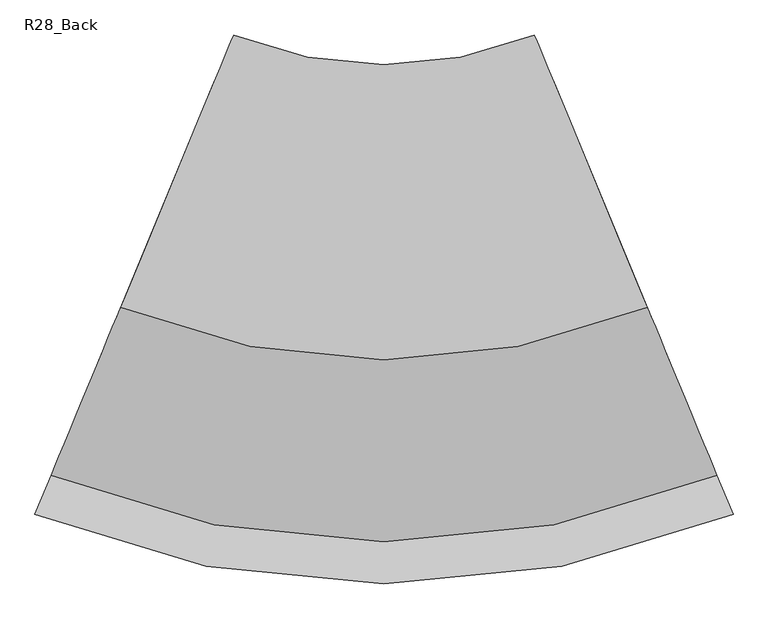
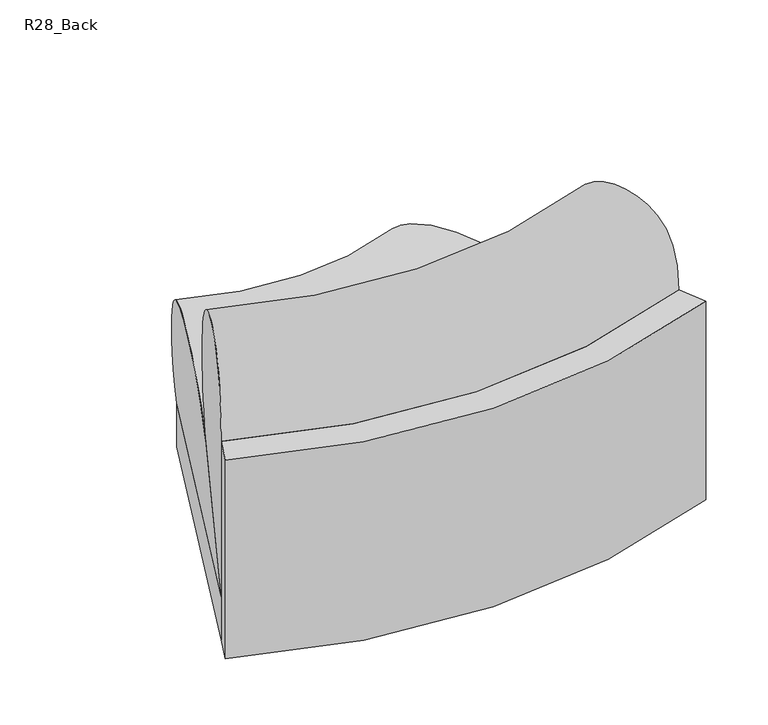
"""IFC4 building model written with IfcOpenShell, lengths in millimetres: furniture geometry, Memo_Candy_CurveInside_R28 : R28_Back."""

from ifc_helpers import new_model, si_unit, point, frame, frame_2d, origin, origin_with_axes, place, context, project, spatial, polyline, circle_curve, ellipse_curve, trimmed, segment, composite_curve, outline, extrude, source, transform, mapped, element, save
from ifc_brep_helpers import plane_surface, cylinder_surface, revolved_surface, spline_curve, advanced_brep


def r28_back_6dc95181(model_context):
    return source(origin(), model_context, "Body", "SolidModel", [
        advanced_brep(
        [(-602.6498693, -280.1754878, 130.8862), (-602.6498693, -280.1754878, 562.6862), (-500.3233143, -33.1373309, 386.6180112), (-500.175361, -32.7801402, 382.770933), (602.6498693, -280.1754878, 130.8862), (500.175361, -32.7801402, 382.770933), (500.3233143, -33.1373309, 386.6180112), (602.6498693, -280.1754878, 562.6862)],
        [
            (0, 1),
            (1, 2, spline_curve(3, [(-602.6498693, -280.1754878, 562.6862), (-602.6498693, -280.1754878, 709.516352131), (-579.827297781, -225.076926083, 756.110862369), (-531.494348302, -108.390863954, 789.248467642), (-505.955313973, -46.734180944, 768.908542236), (-478.027686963, 20.689074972, 674.263665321), (-474.14745923, 30.056773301, 603.825037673), (-480.797270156, 14.002709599, 487.129586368), (-487.821198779, -2.954554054, 439.369212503), (-500.3233143, -33.1373309, 386.6180112)], [4, 2, 2, 2, 4], [0.0, 0.5511378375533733, 1.1606492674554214, 1.727611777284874, 2.146168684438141])),
            (2, 3, circle_curve(frame((-499.2903487, -30.6435315, 384.9463138), z_axis=(0.9238795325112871, -0.38268343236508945, 0.0), x_axis=(-0.38268343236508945, -0.9238795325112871, 0.0)), 3.175)),
            (3, 0),
            (4, 5),
            (5, 6, circle_curve(frame((499.2903487, -30.6435315, 384.9463138), z_axis=(-0.9238795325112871, -0.38268343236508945, 0.0), x_axis=(0.38268343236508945, -0.9238795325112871, 0.0)), 3.175)),
            (6, 7, spline_curve(3, [(500.3233143, -33.1373309, 386.6180112), (487.821198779, -2.954554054, 439.369212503), (480.797270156, 14.002709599, 487.129586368), (474.14745923, 30.056773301, 603.825037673), (478.027686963, 20.689074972, 674.263665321), (505.955313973, -46.734180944, 768.908542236), (531.494348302, -108.390863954, 789.248467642), (579.827297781, -225.076926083, 756.110862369), (602.6498693, -280.1754878, 709.516352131), (602.6498693, -280.1754878, 562.6862)], [4, 2, 2, 2, 4], [0.0, 0.4185569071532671, 0.9855194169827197, 1.5950308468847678, 2.146168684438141])),
            (7, 4),
            (4, 0, circle_curve(frame((0.0, 1174.75, 130.8862), z_axis=(0.0, 0.0, -1.0), x_axis=(-0.38268343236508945, -0.9238795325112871, 0.0)), 1574.8)),
            (3, 5, circle_curve(frame((0.0, 1174.75, 382.770933), z_axis=(0.0, 0.0, 1.0), x_axis=(-0.38268343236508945, -0.9238795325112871, 0.0)), 1307.0212053)),
            (2, 6, circle_curve(frame((0.0, 1174.75, 386.6180112), z_axis=(0.0, 0.0, 1.0), x_axis=(-0.38268343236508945, -0.9238795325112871, 0.0)), 1307.4078258)),
            (1, 7, circle_curve(frame((0.0, 1174.75, 562.6862), z_axis=(0.0, 0.0, 1.0), x_axis=(-0.38268343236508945, -0.9238795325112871, 0.0)), 1574.8)),
        ],
        [
            plane_surface(frame((0.0, 1174.75, -101.6), z_axis=(-0.923879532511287, 0.3826834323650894, 0.0), x_axis=(-0.3826834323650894, -0.923879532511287, 0.0))),
            plane_surface(frame((0.0, 1174.75, -101.6), z_axis=(0.923879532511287, 0.3826834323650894, 0.0), x_axis=(0.3826834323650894, -0.923879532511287, 0.0))),
            revolved_surface(polyline([(-500.175361, -32.7801402, 382.770933), (-602.6498693, -280.1754878, 130.8862)]), (0.0, 1174.75, -101.6), (0.0, 0.0, 1.0)),
            revolved_surface(trimmed(ellipse_curve(frame((-499.2903487, -30.6435315, 384.9463138), z_axis=(0.9238795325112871, -0.38268343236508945, 0.0), x_axis=(-0.38268343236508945, -0.9238795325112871, 0.0)), 3.175, 3.175), [point((-500.3233143, -33.1373309, 386.6180112))], [point((-500.175361, -32.7801402, 382.770933))], True, "CARTESIAN"), (0.0, 1174.75, -101.6), (0.0, 0.0, 1.0)),
            revolved_surface(spline_curve(3, [(-602.6498693, -280.1754878, 562.6862), (-602.6498693, -280.1754878, 709.516352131), (-579.827297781, -225.076926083, 756.110862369), (-531.494348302, -108.390863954, 789.248467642), (-505.955313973, -46.734180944, 768.908542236), (-478.027686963, 20.689074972, 674.263665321), (-474.14745923, 30.056773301, 603.825037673), (-480.797270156, 14.002709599, 487.129586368), (-487.821198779, -2.954554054, 439.369212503), (-500.3233143, -33.1373309, 386.6180112)], [4, 2, 2, 2, 4], [0.0, 0.5511378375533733, 1.1606492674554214, 1.727611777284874, 2.146168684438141]), (0.0, 1174.75, -101.6), (0.0, 0.0, 1.0)),
            cylinder_surface(frame((0.0, 1174.75, -101.6), z_axis=(0.0, 0.0, 1.0), x_axis=(-0.38268343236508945, -0.9238795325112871, 0.0)), 1574.8),
        ],
        [
            (0, [[1, 2, 3, 4]]),
            (1, [[5, 6, 7, 8]]),
            (2, [[-5, 9, -4, 10]]),
            (3, [[-6, -10, -3, 11]]),
            (4, [[-7, -11, -2, 12]]),
            (5, [[-8, -12, -1, -9]]),
        ],
    ),
        advanced_brep(
        [(-602.6498693, -280.1754878, 130.8862), (-500.175361, -32.7801402, 382.770933), (-498.6241946, -29.0352931, 382.2910487), (-498.1095318, -27.7927873, 383.1727272), (-306.1850142, 435.553986, 130.8862), (602.6498693, -280.1754878, 130.8862), (306.1850142, 435.553986, 130.8862), (498.1095318, -27.7927873, 383.1727272), (498.6241946, -29.0352931, 382.2910487), (500.175361, -32.7801402, 382.770933)],
        [
            (0, 1),
            (1, 2, circle_curve(frame((-499.2903487, -30.6435315, 384.9463138), z_axis=(0.9238795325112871, -0.38268343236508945, 0.0), x_axis=(-0.38268343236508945, -0.9238795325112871, 0.0)), 3.175)),
            (2, 3),
            (3, 4, spline_curve(3, [(-498.1095318, -27.7927873, 383.1727272), (-467.382238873, 46.389460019, 435.812236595), (-424.808393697, 149.171814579, 449.084914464), (-354.290543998, 319.416963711, 454.422655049), (-328.653768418, 381.309614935, 443.81214514), (-288.783539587, 477.564862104, 393.569418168), (-273.53242287, 514.384314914, 357.685536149), (-271.191507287, 520.035785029, 240.606468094), (-278.893552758, 501.44140235, 170.417318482), (-306.1850142, 435.553986, 130.8862)], [4, 2, 2, 2, 4], [0.0, 0.5700178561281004, 1.2070229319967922, 1.7653111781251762, 2.2072085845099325])),
            (4, 0),
            (5, 6),
            (6, 7, spline_curve(3, [(306.1850142, 435.553986, 130.8862), (278.893552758, 501.44140235, 170.417318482), (271.191507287, 520.035785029, 240.606468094), (273.53242287, 514.384314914, 357.685536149), (288.783539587, 477.564862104, 393.569418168), (328.653768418, 381.309614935, 443.81214514), (354.290543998, 319.416963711, 454.422655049), (424.808393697, 149.171814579, 449.084914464), (467.382238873, 46.389460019, 435.812236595), (498.1095318, -27.7927873, 383.1727272)], [4, 2, 2, 2, 4], [0.0, 0.4418974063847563, 1.0001856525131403, 1.637190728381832, 2.2072085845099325])),
            (7, 8),
            (8, 9, circle_curve(frame((499.2903487, -30.6435315, 384.9463138), z_axis=(-0.9238795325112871, -0.38268343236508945, 0.0), x_axis=(0.38268343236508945, -0.9238795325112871, 0.0)), 3.175)),
            (9, 5),
            (5, 0, circle_curve(frame((0.0, 1174.75, 130.8862), z_axis=(0.0, 0.0, -1.0), x_axis=(-0.38268343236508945, -0.9238795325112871, 0.0)), 1574.8)),
            (4, 6, circle_curve(frame((0.0, 1174.75, 130.8862), z_axis=(0.0, 0.0, 1.0), x_axis=(-0.38268343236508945, -0.9238795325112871, 0.0)), 800.1)),
            (3, 7, circle_curve(frame((0.0, 1174.75, 383.1727272), z_axis=(0.0, 0.0, 1.0), x_axis=(-0.38268343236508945, -0.9238795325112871, 0.0)), 1301.6229335)),
            (2, 8, circle_curve(frame((0.0, 1174.75, 382.2910487), z_axis=(0.0, 0.0, 1.0), x_axis=(-0.38268343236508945, -0.9238795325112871, 0.0)), 1302.9678121)),
            (1, 9, circle_curve(frame((0.0, 1174.75, 382.770933), z_axis=(0.0, 0.0, 1.0), x_axis=(-0.38268343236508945, -0.9238795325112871, 0.0)), 1307.0212053)),
        ],
        [
            plane_surface(frame((0.0, 1174.75, -173.9138), z_axis=(-0.923879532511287, 0.3826834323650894, 0.0), x_axis=(-0.3826834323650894, -0.923879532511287, 0.0))),
            plane_surface(frame((0.0, 1174.75, -173.9138), z_axis=(0.923879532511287, 0.3826834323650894, 0.0), x_axis=(0.3826834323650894, -0.923879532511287, 0.0))),
            plane_surface(frame((0.0, 1174.75, 130.8862), z_axis=(0.0, 0.0, -1.0), x_axis=(-0.3826834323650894, -0.923879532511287, 0.0))),
            revolved_surface(spline_curve(3, [(-498.1095318, -27.7927873, 383.1727272), (-467.382238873, 46.389460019, 435.812236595), (-424.808393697, 149.171814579, 449.084914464), (-354.290543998, 319.416963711, 454.422655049), (-328.653768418, 381.309614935, 443.81214514), (-288.783539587, 477.564862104, 393.569418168), (-273.53242287, 514.384314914, 357.685536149), (-271.191507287, 520.035785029, 240.606468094), (-278.893552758, 501.44140235, 170.417318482), (-306.1850142, 435.553986, 130.8862)], [4, 2, 2, 2, 4], [0.0, 0.5700178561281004, 1.2070229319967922, 1.7653111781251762, 2.2072085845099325]), (0.0, 1174.75, -173.9138), (0.0, 0.0, 1.0)),
            revolved_surface(polyline([(-498.6241946, -29.0352931, 382.2910487), (-498.1095318, -27.7927873, 383.1727272)]), (0.0, 1174.75, -173.9138), (0.0, 0.0, 1.0)),
            revolved_surface(trimmed(ellipse_curve(frame((-499.2903487, -30.6435315, 384.9463138), z_axis=(0.9238795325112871, -0.38268343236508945, 0.0), x_axis=(-0.38268343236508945, -0.9238795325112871, 0.0)), 3.175, 3.175), [point((-500.175361, -32.7801402, 382.770933))], [point((-498.6241946, -29.0352931, 382.2910487))], True, "CARTESIAN"), (0.0, 1174.75, -173.9138), (0.0, 0.0, 1.0)),
            revolved_surface(polyline([(-602.6498693, -280.1754878, 130.8862), (-500.175361, -32.7801402, 382.770933)]), (0.0, 1174.75, -173.9138), (0.0, 0.0, 1.0)),
        ],
        [
            (0, [[1, 2, 3, 4, 5]]),
            (1, [[6, 7, 8, 9, 10]]),
            (2, [[-6, 11, -5, 12]]),
            (3, [[-7, -12, -4, 13]]),
            (4, [[-8, -13, -3, 14]]),
            (5, [[-9, -14, -2, 15]]),
            (6, [[-10, -15, -1, -11]]),
        ],
    ),
        extrude(outline(composite_curve([segment(trimmed(circle_curve(frame_2d((-529.9996222, -254.1224228)), 14.2875), [point((-544.2871222, -254.1224228))], [point((-515.7121222, -254.1224228))], False, "CARTESIAN"), True, "CONTINUOUS"), segment(trimmed(circle_curve(frame_2d((-529.9996222, -254.1224228)), 14.2875), [point((-515.7121222, -254.1224228))], [point((-544.2871222, -254.1224228))], False, "CARTESIAN"), True, "CONTINUOUS")], self_intersect=False)), origin_with_axes(), (0.0, 0.0, 1.0), 10.2362),
        extrude(outline(composite_curve([segment(trimmed(circle_curve(frame_2d((529.9996222, -254.1224228)), 14.2875), [point((515.7121222, -254.1224228))], [point((544.2871222, -254.1224228))], False, "CARTESIAN"), True, "CONTINUOUS"), segment(trimmed(circle_curve(frame_2d((529.9996222, -254.1224228)), 14.2875), [point((544.2871222, -254.1224228))], [point((515.7121222, -254.1224228))], False, "CARTESIAN"), True, "CONTINUOUS")], self_intersect=False)), origin_with_axes(), (0.0, 0.0, 1.0), 10.2362),
        extrude(outline(composite_curve([segment(trimmed(circle_curve(frame_2d((-272.0903348, 368.5256766)), 14.2875), [point((-286.3778348, 368.5256766))], [point((-257.8028348, 368.5256766))], False, "CARTESIAN"), True, "CONTINUOUS"), segment(trimmed(circle_curve(frame_2d((-272.0903348, 368.5256766)), 14.2875), [point((-257.8028348, 368.5256766))], [point((-286.3778348, 368.5256766))], False, "CARTESIAN"), True, "CONTINUOUS")], self_intersect=False)), origin_with_axes(), (0.0, 0.0, 1.0), 10.2362),
        extrude(outline(composite_curve([segment(trimmed(circle_curve(frame_2d((272.0903348, 368.5256766)), 14.2875), [point((257.8028348, 368.5256766))], [point((286.3778348, 368.5256766))], False, "CARTESIAN"), True, "CONTINUOUS"), segment(trimmed(circle_curve(frame_2d((272.0903348, 368.5256766)), 14.2875), [point((286.3778348, 368.5256766))], [point((257.8028348, 368.5256766))], False, "CARTESIAN"), True, "CONTINUOUS")], self_intersect=False)), origin_with_axes(), (0.0, 0.0, 1.0), 10.2362),
        extrude(outline(composite_curve([segment(trimmed(circle_curve(frame_2d((0.0, -349.25)), 14.2875), [point((-14.2875, -349.25))], [point((14.2875, -349.25))], False, "CARTESIAN"), True, "CONTINUOUS"), segment(trimmed(circle_curve(frame_2d((0.0, -349.25)), 14.2875), [point((14.2875, -349.25))], [point((-14.2875, -349.25))], False, "CARTESIAN"), True, "CONTINUOUS")], self_intersect=False)), origin_with_axes(), (0.0, 0.0, 1.0), 10.2362),
        extrude(outline(composite_curve([segment(polyline([(-602.6498693, -280.1754878), (-306.1850142, 435.553986)]), True, "CONTINUOUS"), segment(trimmed(circle_curve(frame_2d((0.0, 1174.75)), 800.1), [point((-306.1850142, 435.553986))], [point((306.1850142, 435.553986))], True, "CARTESIAN"), True, "CONTINUOUS"), segment(polyline([(306.1850142, 435.553986), (602.6498693, -280.1754878)]), True, "CONTINUOUS"), segment(trimmed(circle_curve(frame_2d((0.0, 1174.75)), 1574.8), [point((602.6498693, -280.1754878))], [point((-602.6498693, -280.1754878))], False, "CARTESIAN"), True, "CONTINUOUS")], self_intersect=False)), frame((0.0, 0.0, 10.2362), z_axis=(0.0, 0.0, 1.0), x_axis=(1.0, 0.0, 0.0)), (0.0, 0.0, 1.0), 120.65),
        extrude(outline(composite_curve([segment(trimmed(circle_curve(frame_2d((0.0, 1174.75)), 1574.8), [point((-602.6498693, -280.1754878))], [point((602.6498693, -280.1754878))], True, "CARTESIAN"), True, "CONTINUOUS"), segment(polyline([(602.6498693, -280.1754878), (631.8103468, -350.5751082)]), True, "CONTINUOUS"), segment(trimmed(circle_curve(frame_2d((0.0, 1174.75)), 1651.0), [point((631.8103468, -350.5751082))], [point((-631.8103468, -350.5751082))], False, "CARTESIAN"), True, "CONTINUOUS"), segment(polyline([(-631.8103468, -350.5751082), (-602.6498693, -280.1754878)]), True, "CONTINUOUS")], self_intersect=False)), frame((0.0, 0.0, 10.2362), z_axis=(0.0, 0.0, 1.0), x_axis=(1.0, 0.0, 0.0)), (0.0, 0.0, 1.0), 552.45),
    ])


if __name__ == "__main__":
    model = new_model("IFC4")
    model_context = context("Model", 3, world=origin())
    ifc_project = project(units=[si_unit("LENGTHUNIT", "METRE", prefix="MILLI")], contexts=[model_context])
    site = spatial("IfcSite", under=ifc_project)
    building = spatial("IfcBuilding", under=site)
    placement = place(None, origin())
    r28_back_shape = r28_back_6dc95181(model_context)
    element("IfcFurniture", 1, ObjectType="Memo_Candy_CurveInside_R28 : R28_Back", at=placement, inside=building, context=model_context, shape_type="MappedRepresentation", body=[
        mapped(r28_back_shape, transform((0.0, 0.0, 0.0), x_axis=(1.0, 0.0, 0.0), y_axis=(0.0, 1.0, 0.0), z_axis=(0.0, 0.0, 1.0))),
    ])
    save(model, "model.ifc")
